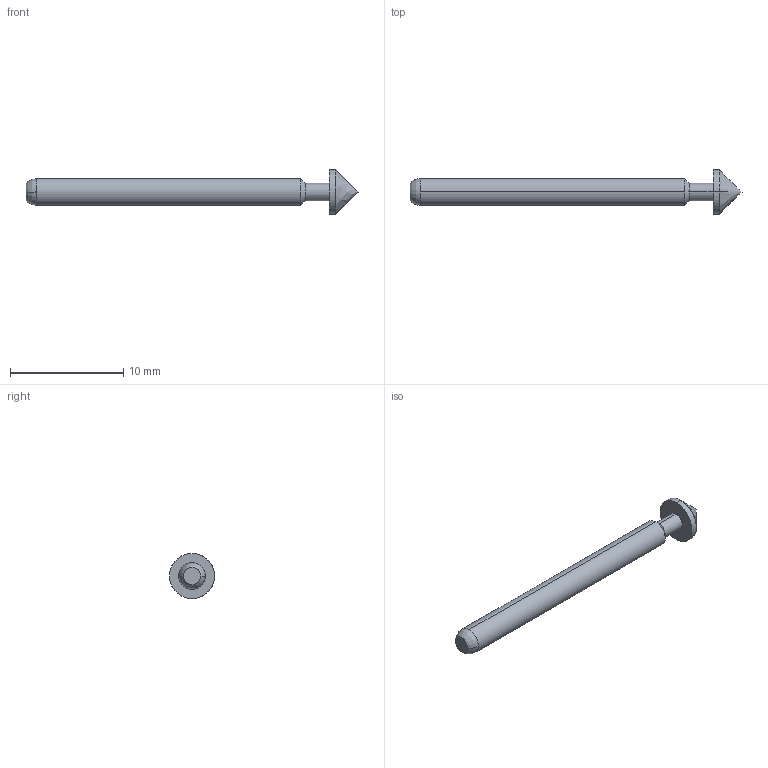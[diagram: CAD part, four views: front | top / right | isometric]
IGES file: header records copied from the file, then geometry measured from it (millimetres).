
Start section: SolidWorks IGES file using analytic representation for surfaces
Global section: file name: Z:\probe solid model mockups\Solidworks models\IGES Files\EPA-4 IGES files\EPA-4E RECD.IGS; native system: SolidWorks 2006 by SolidWorks Corporation; preprocessor: SolidWorks 2006 by SolidWorks Corporation; author: tsakatani; date: 080103.104320; units: inch
Bounding box: 29.29 x 3.96 x 3.96 mm (x, y, z)
Surface area: 230.2 mm2 (no closed solid volume)
Topology: 0 solids, 0 shells, 14 faces, 116 edges, 114 vertices
Faces by surface type: revolution 12, bspline 2
